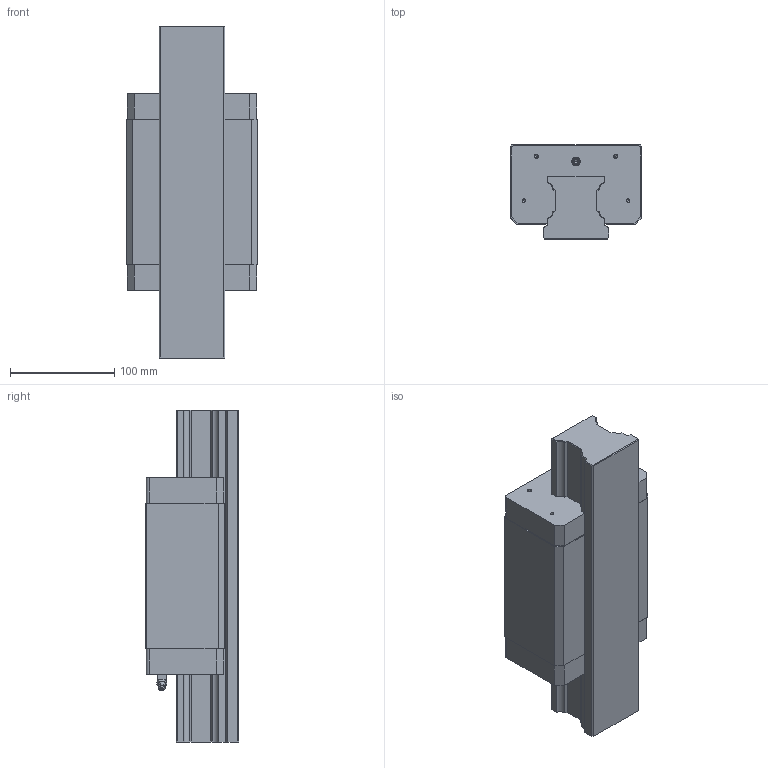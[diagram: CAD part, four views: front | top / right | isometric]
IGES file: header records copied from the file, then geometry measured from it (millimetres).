
Start section: 3D InterOp IGES (v. 2019 1.0.2), Spatial Corp. Copyright (c) 1999-2017.
Global section: file name: R1622_size65.igs; native system: Spatial Corp.; preprocessor: 3D InterOp GENERIC/IGES 3.0; author: Noname; organization: Noname; date: 20220629.124910; units: millimetre
Bounding box: 126 x 90 x 318 mm (x, y, z)
Surface area: 256557.4 mm2 (no closed solid volume)
Topology: 0 solids, 0 shells, 313 faces, 1728 edges, 1696 vertices
Faces by surface type: extrusion 159, revolution 152, bspline 2
